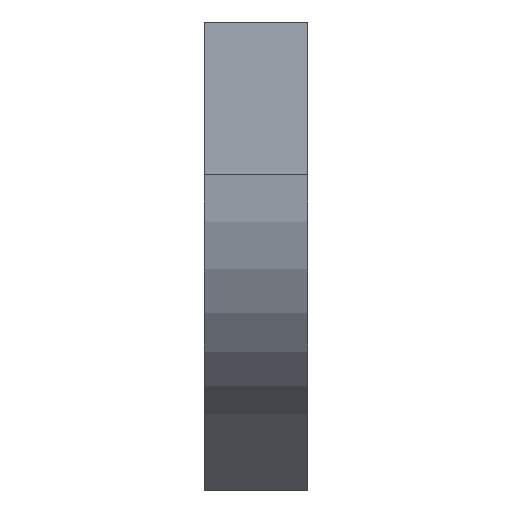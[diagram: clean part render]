
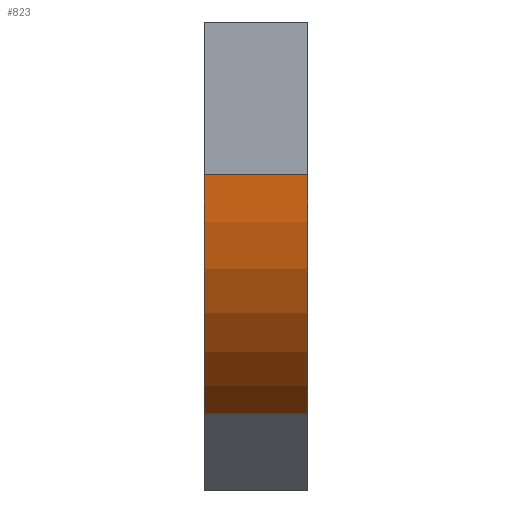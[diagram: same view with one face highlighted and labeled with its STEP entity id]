
A CAD part, left-side view. The second image highlights one B-rep face of the part: STEP entity #823.
In plain terms, the highlighted cylindrical face has radius 300 mm (diameter 600 mm), a partial arc.
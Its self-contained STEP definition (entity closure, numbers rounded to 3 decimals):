
#6 = EDGE_CURVE ( 'NONE', #106, #378, #1056, .T. ) ;
#32 = VERTEX_POINT ( 'NONE', #633 ) ;
#106 = VERTEX_POINT ( 'NONE', #1530 ) ;
#145 = VERTEX_POINT ( 'NONE', #815 ) ;
#171 = CIRCLE ( 'NONE', #1317, 300. ) ;
#194 = CARTESIAN_POINT ( 'NONE',  ( 300., 0., -165.47 ) ) ;
#210 = DIRECTION ( 'NONE',  ( 0., 0., -1. ) ) ;
#315 = ORIENTED_EDGE ( 'NONE', *, *, #6, .F. ) ;
#354 = VECTOR ( 'NONE', #432, 1000. ) ;
#368 = DIRECTION ( 'NONE',  ( -1., 0., 0. ) ) ;
#369 = ORIENTED_EDGE ( 'NONE', *, *, #1632, .F. ) ;
#378 = VERTEX_POINT ( 'NONE', #1756 ) ;
#427 = EDGE_CURVE ( 'NONE', #145, #378, #493, .T. ) ;
#432 = DIRECTION ( 'NONE',  ( 0., -1., 0. ) ) ;
#493 = LINE ( 'NONE', #657, #1664 ) ;
#572 = LINE ( 'NONE', #1148, #354 ) ;
#582 = ORIENTED_EDGE ( 'NONE', *, *, #1351, .T. ) ;
#606 = DIRECTION ( 'NONE',  ( 0., -1., 0. ) ) ;
#619 = AXIS2_PLACEMENT_3D ( 'NONE', #927, #1358, #210 ) ;
#633 = CARTESIAN_POINT ( 'NONE',  ( 0., 112.5, -165.47 ) ) ;
#657 = CARTESIAN_POINT ( 'NONE',  ( 150., 0., -425.278 ) ) ;
#787 = DIRECTION ( 'NONE',  ( -1., 0., 0. ) ) ;
#815 = CARTESIAN_POINT ( 'NONE',  ( 150., 112.5, -425.278 ) ) ;
#823 = ADVANCED_FACE ( 'NONE', ( #910 ), #1216, .T. ) ;
#901 = ORIENTED_EDGE ( 'NONE', *, *, #427, .T. ) ;
#910 = FACE_OUTER_BOUND ( 'NONE', #1483, .T. ) ;
#927 = CARTESIAN_POINT ( 'NONE',  ( 300., 0., -165.47 ) ) ;
#1056 = CIRCLE ( 'NONE', #1117, 300. ) ;
#1058 = CARTESIAN_POINT ( 'NONE',  ( 300., 112.5, -165.47 ) ) ;
#1117 = AXIS2_PLACEMENT_3D ( 'NONE', #194, #1343, #787 ) ;
#1148 = CARTESIAN_POINT ( 'NONE',  ( 0., 0., -165.47 ) ) ;
#1216 = CYLINDRICAL_SURFACE ( 'NONE', #619, 300. ) ;
#1317 = AXIS2_PLACEMENT_3D ( 'NONE', #1058, #1656, #368 ) ;
#1343 = DIRECTION ( 'NONE',  ( 0., -1., 0. ) ) ;
#1351 = EDGE_CURVE ( 'NONE', #32, #145, #171, .T. ) ;
#1358 = DIRECTION ( 'NONE',  ( 0., -1., 0. ) ) ;
#1483 = EDGE_LOOP ( 'NONE', ( #315, #369, #582, #901 ) ) ;
#1530 = CARTESIAN_POINT ( 'NONE',  ( 0., 0., -165.47 ) ) ;
#1632 = EDGE_CURVE ( 'NONE', #32, #106, #572, .T. ) ;
#1656 = DIRECTION ( 'NONE',  ( 0., -1., 0. ) ) ;
#1664 = VECTOR ( 'NONE', #606, 1000. ) ;
#1756 = CARTESIAN_POINT ( 'NONE',  ( 150., 0., -425.278 ) ) ;
